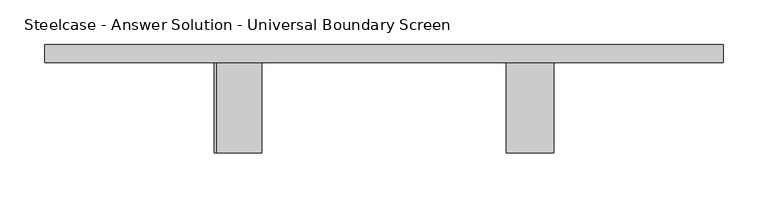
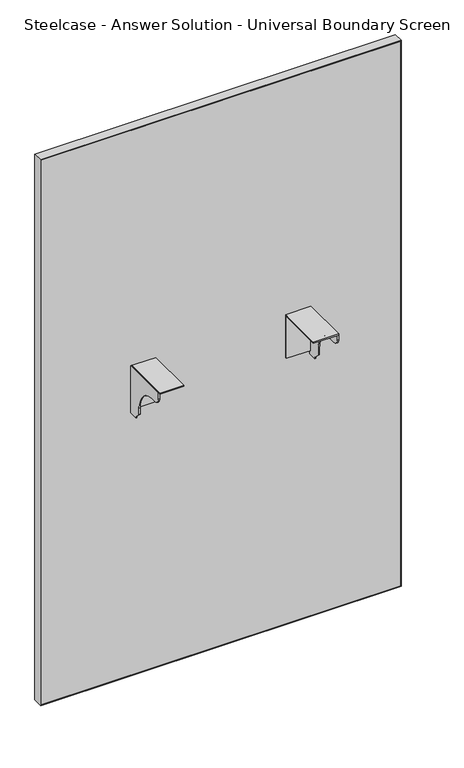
"""IFC4 building model written with IfcOpenShell, lengths in millimetres: furniture geometry, Steelcase - Answer Solution - Universal Boundary Screen : 48H x 30W."""

from ifc_helpers import new_model, si_unit, point, frame, frame_2d, origin, place, context, project, spatial, polyline, circle_curve, trimmed, segment, composite_curve, outline, extrude, source, transform, mapped, element, save


def steelcase_answer_solution_universal_boundary_screen_b5c6cea2(model_context):
    return source(origin(), model_context, "Body", "SweptSolid", [
        extrude(outline(polyline([(-103.1670434, 689.3558876), (-103.1670434, 692.1499758), (-1.5668826, 692.1499758), (-1.5668826, 595.5029317), (-4.1079736, 595.5029317), (-4.1079736, 689.3558876), (-103.1670434, 689.3558876)])), frame((667.2336711, 0.0, 0.0), z_axis=(1.0, 0.0, 0.0), x_axis=(0.0, 1.0, 0.0)), (0.0, 0.0, 1.0), 53.3444116),
        extrude(outline(composite_curve([segment(polyline([(-103.1670434, 679.2814802), (-103.1670434, 692.1499758), (-1.5668826, 692.1499758), (-1.5668826, 586.9634093), (-19.8232934, 586.9634093), (-19.8232934, 589.7574248), (-32.0458032, 601.9799346), (-32.0458032, 615.7814802)]), True, "CONTINUOUS"), segment(trimmed(circle_curve(frame_2d((-82.8458032, 615.7814802)), 50.8), [point((-32.0458032, 615.7814802))], [point((-82.8458032, 666.5814802))], True, "CARTESIAN"), True, "CONTINUOUS"), segment(polyline([(-82.8458032, 666.5814802), (-90.4670434, 666.5814802)]), True, "CONTINUOUS"), segment(trimmed(circle_curve(frame_2d((-90.4670434, 679.2814802)), 12.7), [point((-90.4670434, 666.5814802))], [point((-103.1670434, 679.2814802))], False, "CARTESIAN"), True, "CONTINUOUS")], self_intersect=False)), frame((718.0328959, 0.0, 0.0), z_axis=(1.0, 0.0, 0.0), x_axis=(0.0, 1.0, 0.0)), (0.0, 0.0, 1.0), 2.5451868),
        extrude(outline(polyline([(-103.1670434, 689.3558876), (-103.1670434, 692.1499758), (-1.5668826, 692.1499758), (-1.5668826, 595.5029317), (-4.1079736, 595.5029317), (-4.1079736, 689.3558876), (-103.1670434, 689.3558876)])), frame((342.1232694, 0.0, 0.0), z_axis=(1.0, 0.0, 0.0), x_axis=(0.0, 1.0, 0.0)), (0.0, 0.0, 1.0), 50.7992249),
        extrude(outline(composite_curve([segment(polyline([(-103.1670434, 679.2814802), (-103.1670434, 692.1499758), (-1.5668826, 692.1499758), (-1.5668826, 586.9634093), (-19.8232934, 586.9634093), (-19.8232934, 589.7574248), (-32.0458032, 601.9799346), (-32.0458032, 615.7814802)]), True, "CONTINUOUS"), segment(trimmed(circle_curve(frame_2d((-82.8458032, 615.7814802)), 50.8), [point((-32.0458032, 615.7814802))], [point((-82.8458032, 666.5814802))], True, "CARTESIAN"), True, "CONTINUOUS"), segment(polyline([(-82.8458032, 666.5814802), (-90.4670434, 666.5814802)]), True, "CONTINUOUS"), segment(trimmed(circle_curve(frame_2d((-90.4670434, 679.2814802)), 12.7), [point((-90.4670434, 666.5814802))], [point((-103.1670434, 679.2814802))], False, "CARTESIAN"), True, "CONTINUOUS")], self_intersect=False)), frame((339.5780827, 0.0, 0.0), z_axis=(1.0, 0.0, 0.0), x_axis=(0.0, 1.0, 0.0)), (0.0, 0.0, 1.0), 2.5451868),
        extrude(outline(polyline([(150.0706578, 18.9055112), (910.0855076, 18.9055112), (910.0855076, -1.5668826), (150.0706578, -1.5668826), (150.0706578, 18.9055112)])), frame((0.0, 0.0, 1.016), z_axis=(0.0, 0.0, 1.0), x_axis=(1.0, 0.0, 0.0)), (0.0, 0.0, 1.0), 1217.1914249),
        extrude(outline(polyline([(1219.2, 911.0780827), (1219.2, 149.0780827), (0.0, 149.0780827), (0.0, 911.0780827), (1219.2, 911.0780827)]), holes=[polyline([(1218.2074249, 910.0855076), (1.016, 910.0855076), (1.016, 150.0706578), (1218.2074249, 150.0706578), (1218.2074249, 910.0855076)])]), frame((0.0, -1.5668826, 0.0), z_axis=(0.0, 1.0, 0.0), x_axis=(0.0, 0.0, 1.0)), (0.0, 0.0, 1.0), 20.4723938),
    ])


if __name__ == "__main__":
    model = new_model("IFC4")
    model_context = context("Model", 3, world=origin())
    ifc_project = project(units=[si_unit("LENGTHUNIT", "METRE", prefix="MILLI")], contexts=[model_context])
    site = spatial("IfcSite", under=ifc_project)
    building = spatial("IfcBuilding", under=site)
    placement = place(None, origin())
    steelcase_answer_solution_universal_boundary_screen_shape = steelcase_answer_solution_universal_boundary_screen_b5c6cea2(model_context)
    element("IfcFurniture", 1, ObjectType="Steelcase - Answer Solution - Universal Boundary Screen : 48H x 30W", at=placement, inside=building, context=model_context, shape_type="MappedRepresentation", body=[
        mapped(steelcase_answer_solution_universal_boundary_screen_shape, transform((0.0, 0.0, 0.0), x_axis=(1.0, 0.0, 0.0), y_axis=(0.0, 1.0, 0.0), z_axis=(0.0, 0.0, 1.0))),
    ])
    save(model, "model.ifc")
